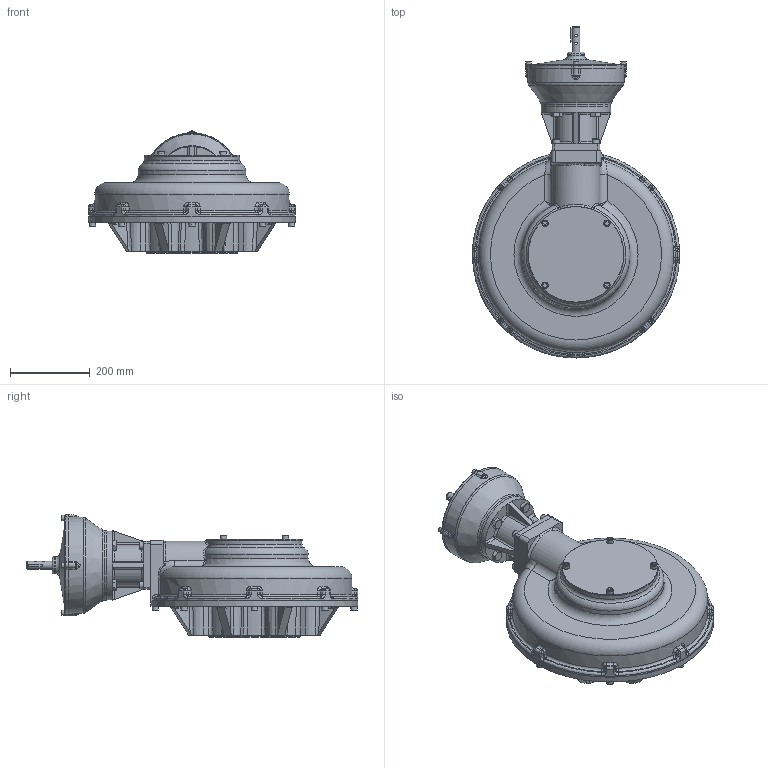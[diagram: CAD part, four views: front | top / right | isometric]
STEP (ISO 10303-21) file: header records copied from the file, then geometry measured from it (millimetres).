
FILE_DESCRIPTION( ( 'Unknown' ), '1' );
FILE_NAME( 'X:/CURRENT/PUB/Hob/HOB-2014/HOB-MPR/HOB-MPR-STP_FILES/PUB-HOB12MPR10-60.8-MAN-F30.stp', 'Unknown', ( 'Unknown' ), ( 'Unknown' ), 'PSStep 16.0.42', 'Unknown', ' ' );
FILE_SCHEMA( ( 'AUTOMOTIVE_DESIGN { 1 0 10303 214 1 1 1 1 }' ) );
Length unit declared in the file: millimetre
Products named in the file (35): 1; 2; 3; 4; 5; 6; 7; 8; 9; 10; 11; 12; 13; 14; 15; 16; 17; 18; 19; 20; 21; 22; 23; 24; 25; 26; trelleborg_trea00200-n7mm_b5c67wtxxcj74kwnwb2box077_01; 27; 28; 29; 30; 31; 32; 33; 34
Bounding box: 520 x 833.48 x 307.37 mm (x, y, z)
Surface area: 2313339.7 mm2 (no closed solid volume)
Topology: 0 solids, 3701 shells, 3701 faces, 18921 edges, 18413 vertices
Faces by surface type: cylinder 1240, plane 1028, cone 630, bspline 339, torus 306, sphere 158
Full cylindrical faces by diameter (mm): 6 x2, 6.647 x8, 8 x4, 8.5 x16, 10 x20, 10.1 x8, 10.2 x4, 10.5 x8, 11.5 x4, 12 x4, 12.5 x4, 13.27 x4, 13.835 x8, 16 x16, 16.5 x4, 17.5 x8, 18 x4, 19 x1, 20 x2, 20.5 x2, 22.098 x1, 23 x1, 25 x1, 29.5 x1, 29.583 x1, 30 x3, 50 x2, 55.115 x1, 90 x2, 94 x1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
Entity records: 282293 total; most frequent: CARTESIAN_POINT 116150, DIRECTION 29552, VERTEX_POINT 18259, ORIENTED_EDGE 18224, EDGE_CURVE 18224, AXIS2_PLACEMENT_3D 11475, CIRCLE 8046, LINE 6602
